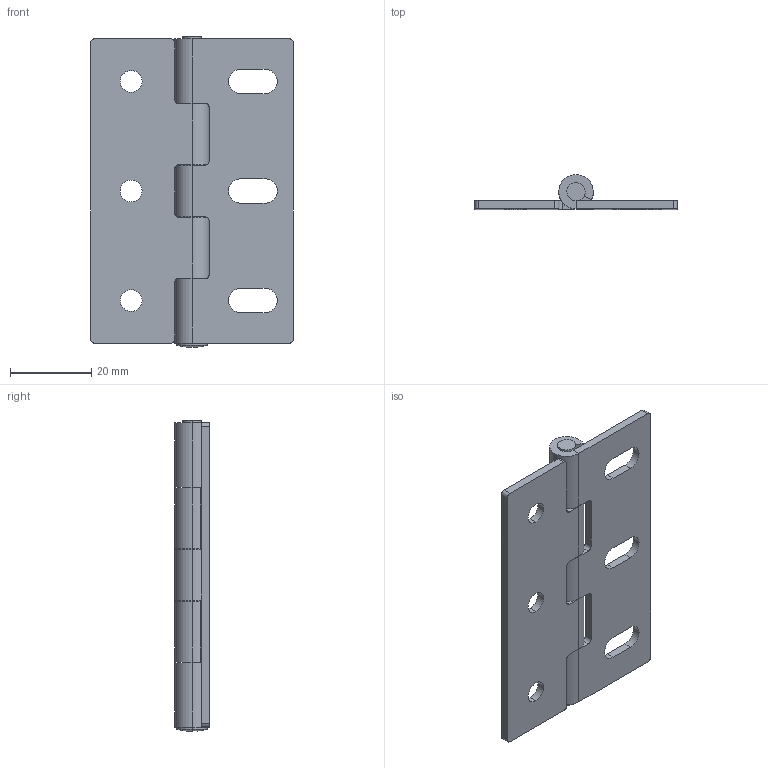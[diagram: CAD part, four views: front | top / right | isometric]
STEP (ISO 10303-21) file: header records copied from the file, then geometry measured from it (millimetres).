
FILE_DESCRIPTION (( 'STEP AP214' ), '1' );
FILE_NAME ('HL034-1.STEP', '2023-08-24T00:13:03', ( '' ), ( '' ), 'SwSTEP 2.0', 'SolidWorks 2019', '' );
FILE_SCHEMA (( 'AUTOMOTIVE_DESIGN' ));
Length unit declared in the file: millimetre
Products named in the file (4): HL034-1; HL034-1-1B; HL034-1-1XIAOZI; HL034-1-1A
Assembly tree (3 placements, depth 2):
  HL034-1
    HL034-1-1A
    HL034-1-1B
    HL034-1-1XIAOZI
Bounding box: 50 x 8.5 x 76.5 mm (x, y, z)
Volume: 10091.9 mm3; surface area: 11489.4 mm2
Topology: 3 solids, 3 shells, 100 faces, 276 edges, 181 vertices
Faces by surface type: cylinder 60, plane 38, torus 2
Entity records: 3398 total; most frequent: DIRECTION 608, CARTESIAN_POINT 561, ORIENTED_EDGE 548, EDGE_CURVE 274, AXIS2_PLACEMENT_3D 228, VERTEX_POINT 181, LINE 152, VECTOR 152
